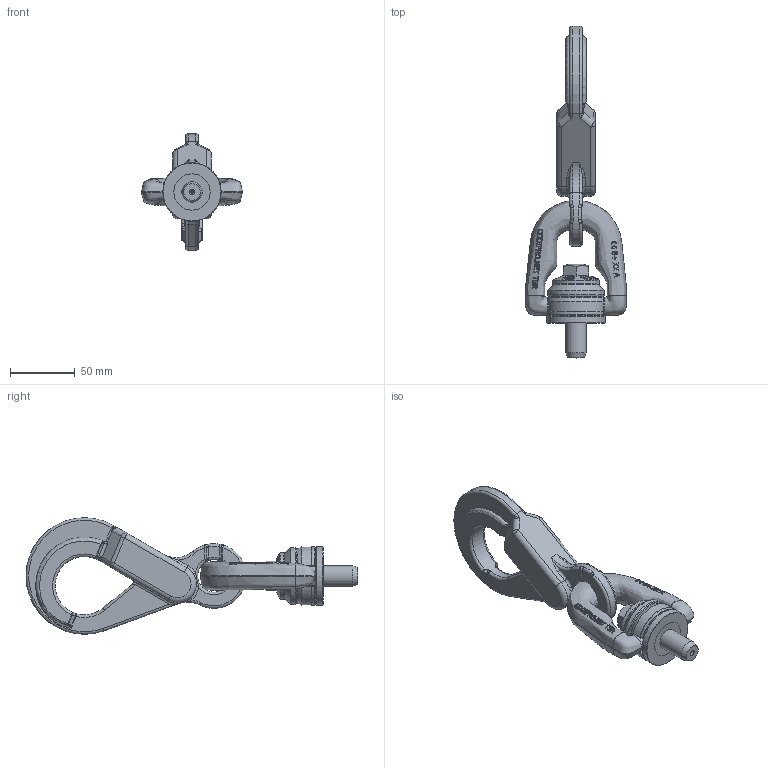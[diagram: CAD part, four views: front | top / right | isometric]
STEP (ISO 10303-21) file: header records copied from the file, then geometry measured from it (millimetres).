
FILE_DESCRIPTION(/* description */ (''),/* implementation_level */ '2;1');
FILE_NAME(/* name */ 'W:\CODIPRO\DOCUMENTS\Plans A NE PAS DIFFUSER !!!\Inventor\Standard Inventor\Produit Fini Inventor\DSH\Fichiers 3D\DSH M16.stp',/* time_stamp */ '2017-10-06T09:09:53+02:00',/* author */ ('rklenes'),/* organization */ (''),/* preprocessor_version */ 'ST-DEVELOPER v16.5',/* originating_system */ 'Autodesk Inventor 2017',/* authorisation */ '');
FILE_SCHEMA (('AUTOMOTIVE_DESIGN { 1 0 10303 214 3 1 1 }'));
Length unit declared in the file: millimetre
Products named in the file (6): DSH M16; DRB_B2B; TSM_AO2C; DHH_S2; DRE_D2M16A; DRA_M16X57
Assembly tree (5 placements, depth 2):
  DSH M16
    DRB_B2B
    TSM_AO2C
    DHH_S2
    DRE_D2M16A
    DRA_M16X57
Bounding box: 77.89 x 256.25 x 90 mm (x, y, z)
Volume: 238972 mm3; surface area: 58128.4 mm2
Topology: 5 solids, 5 shells, 735 faces, 1871 edges, 1164 vertices
Faces by surface type: plane 283, bspline 271, cylinder 80, torus 47, cone 37, sphere 17
Full cylindrical faces by diameter (mm): 2 x1, 14 x2, 16 x4, 16.2 x1, 22.6 x2, 23 x2, 25 x1, 32 x1, 36 x1, 44 x1, 45 x1
Entity records: 34468 total; most frequent: CARTESIAN_POINT 18826, ORIENTED_EDGE 3614, DIRECTION 2476, EDGE_CURVE 1807, VERTEX_POINT 1160, AXIS2_PLACEMENT_3D 943, EDGE_LOOP 821, FACE_OUTER_BOUND 735
